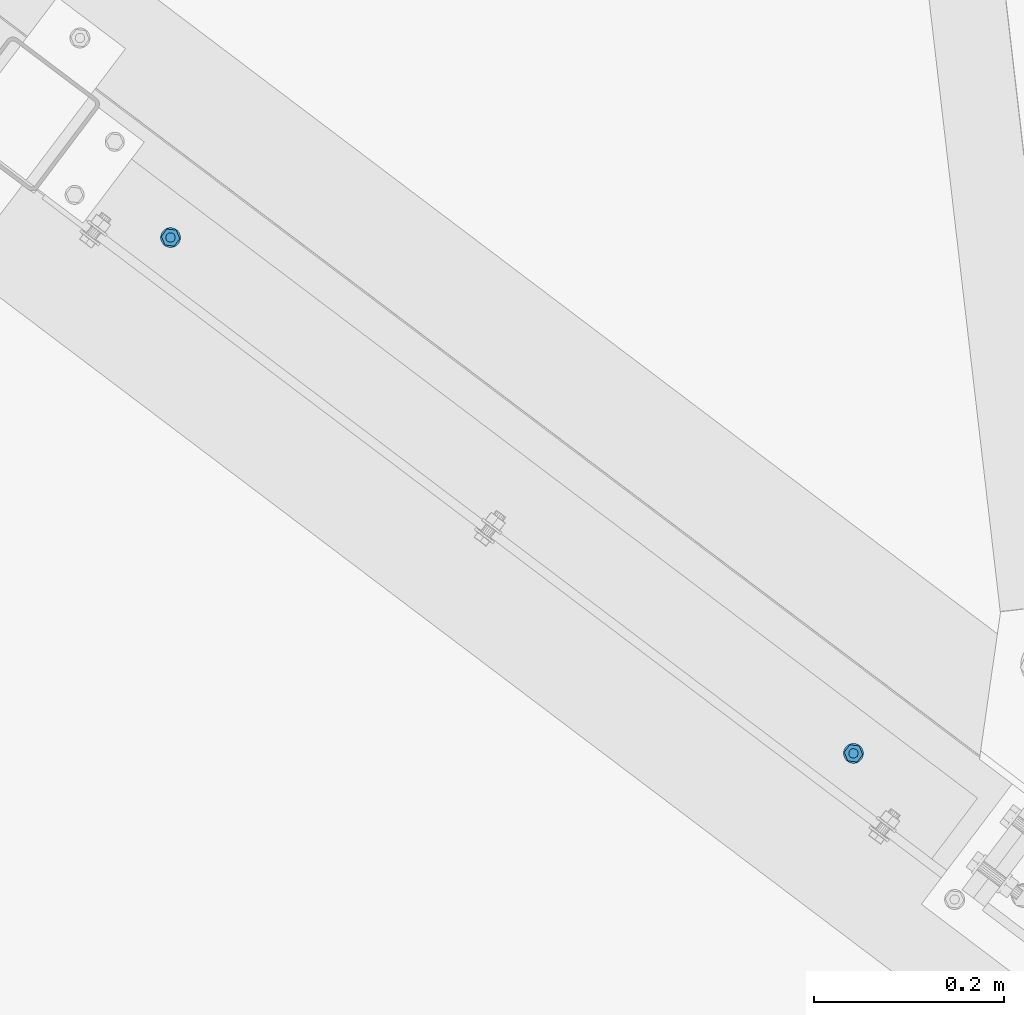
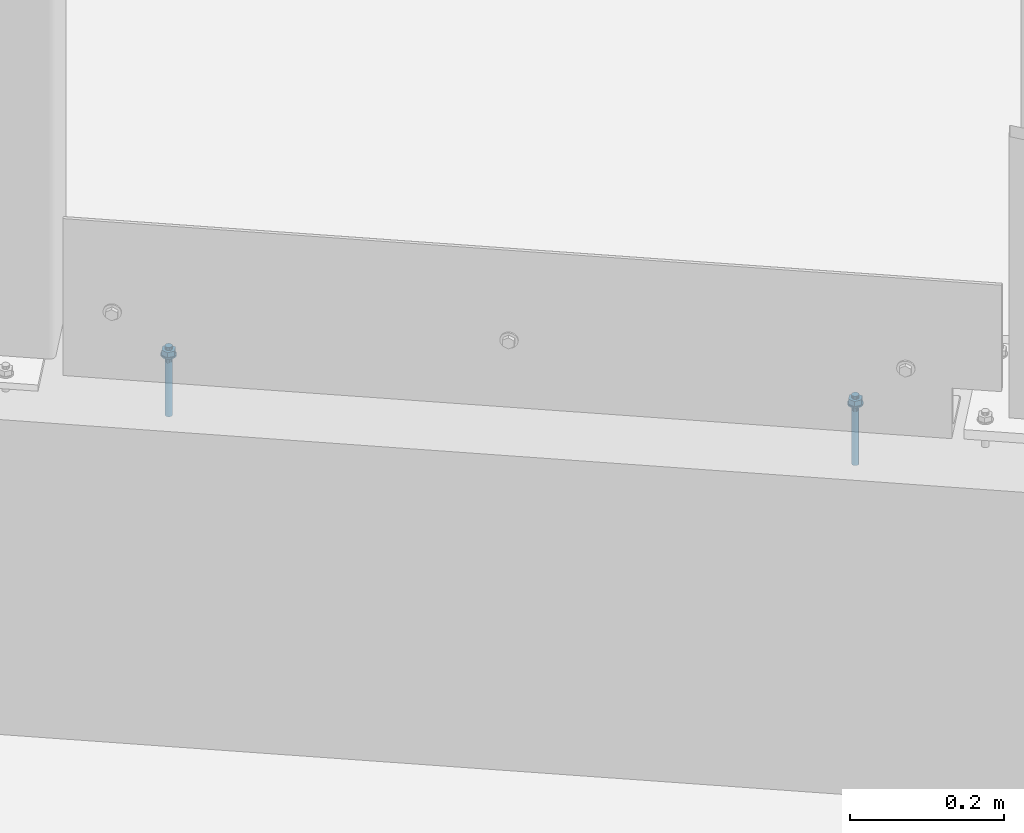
# One storey, part 174 of 476: 1 mechanical fastener.
"""IFC2X3 building model written with IfcOpenShell, lengths in millimetres."""

import ifcopenshell
import ifcopenshell.guid

model = None  # the IFC model being written
_history = None  # IfcOwnerHistory: only IFC2X3 demands one
_inside = {}  # id of a spatial element -> (the spatial element, [elements in it])
_under = {}  # id of a project, library or spatial element -> (it, [spatial elements below it])
_declared = {}  # id of a project -> (the project, [libraries it declares])
_typed = {}  # id of a type object -> (the type object, [elements of that type])
_made_of = {}  # id of a material, layer set ... -> (it, [elements and type objects made of it])


def new_model(schema):
    """Start an empty IFC model of exactly this schema.

    Asked for "IFC4X3", IfcOpenShell would pick the latest addendum, in which some entities
    have other attributes; the version numbers below select the first issue.
    IFC2X3 requires an IfcOwnerHistory on every rooted entity: one is made here for all.
    """
    global model, _history
    if schema == "IFC4X3":
        model = ifcopenshell.file(schema_version=(4, 3, 0, 0))
    else:
        model = ifcopenshell.file(schema=schema)
    _inside.clear()
    _under.clear()
    _declared.clear()
    _typed.clear()
    _made_of.clear()
    _history = None
    if model.schema == "IFC2X3":
        org = make("IfcOrganization", Name="unknown")
        user = make(
            "IfcPersonAndOrganization",
            ThePerson=make("IfcPerson", FamilyName="unknown"),
            TheOrganization=org,
        )
        app = make(
            "IfcApplication",
            ApplicationDeveloper=org,
            Version="unknown",
            ApplicationFullName="unknown",
            ApplicationIdentifier="unknown",
        )
        _history = make(
            "IfcOwnerHistory",
            OwningUser=user,
            OwningApplication=app,
            ChangeAction="ADDED",
            CreationDate=0,
        )
    return model


def make(cls, **values):
    """One entity of the class cls with the attributes given. An attribute that is None is left unset."""
    return model.create_entity(
        cls, **{name: value for name, value in values.items() if value is not None}
    )


def entity(cls, *values):
    """Any entity or typed value of the class cls, its attributes in the order of the schema. None: left unset."""
    e = model.create_entity(cls)
    for i, value in enumerate(values):
        if value is not None:
            e[i] = value
    return e


def rooted(cls, **values):
    """An entity with a GlobalId (a new one), such as an element, a storey or a relation."""
    return make(cls, GlobalId=ifcopenshell.guid.new(), OwnerHistory=_history, **values)


def si_unit(unit_type, name, prefix=None):
    """IfcSIUnit, for example si_unit("LENGTHUNIT", "METRE", prefix="MILLI")."""
    return make("IfcSIUnit", UnitType=unit_type, Prefix=prefix, Name=name)


def converted_unit(unit_type, name, factor, base, dimensions=None, offset=None):
    """IfcConversionBasedUnit, such as the inch: factor (a typed value) times the base unit."""
    return make(
        "IfcConversionBasedUnit"
        if offset is None
        else "IfcConversionBasedUnitWithOffset",
        ConversionOffset=offset,
        Dimensions=None
        if dimensions is None
        else entity("IfcDimensionalExponents", *dimensions),
        UnitType=unit_type,
        Name=name,
        ConversionFactor=make(
            "IfcMeasureWithUnit", ValueComponent=factor, UnitComponent=base
        ),
    )


def assignment(units):
    """IfcUnitAssignment: the units of a project."""
    return None if units is None else make("IfcUnitAssignment", Units=units)


def point(xyz):
    """IfcCartesianPoint."""
    return None if xyz is None else make("IfcCartesianPoint", Coordinates=xyz)


def direction(xyz):
    """IfcDirection."""
    return None if xyz is None else make("IfcDirection", DirectionRatios=xyz)


def frame(location, z_axis=None, x_axis=None):
    """IfcAxis2Placement3D, a coordinate frame: its origin and axes. An axis left out is left unset."""
    return make(
        "IfcAxis2Placement3D",
        Location=point(location),
        Axis=direction(z_axis),
        RefDirection=direction(x_axis),
    )


def origin_with_axes():
    """The frame at (0, 0, 0) with the z axis (0, 0, 1) and the x axis (1, 0, 0) written out."""
    return frame((0.0, 0.0, 0.0), z_axis=(0.0, 0.0, 1.0), x_axis=(1.0, 0.0, 0.0))


def place(relative_to, where):
    """IfcLocalPlacement: puts the frame where relative to a parent placement (None: the world)."""
    return make(
        "IfcLocalPlacement", PlacementRelTo=relative_to, RelativePlacement=where
    )


def context(
    kind, dimensions, precision=None, world=None, true_north=None, identifier=None
):
    """IfcGeometricRepresentationContext, for example the 3D "Model" context."""
    return make(
        "IfcGeometricRepresentationContext",
        ContextIdentifier=identifier,
        ContextType=kind,
        CoordinateSpaceDimension=dimensions,
        Precision=precision,
        WorldCoordinateSystem=world,
        TrueNorth=true_north,
    )


def project(units=None, contexts=None):
    """IfcProject with its units and contexts."""
    return rooted(
        "IfcProject",
        Name="project",
        RepresentationContexts=contexts,
        UnitsInContext=assignment(units),
    )


def spatial(cls, under=None, at=None, **own):
    """A site, building, storey or space (cls), placed at a placement, below another one or the project."""
    s = rooted(cls, ObjectPlacement=at, **own)
    if under is not None:
        _under.setdefault(under.id(), (under, []))[1].append(s)
    return s


def faces_of(points, faces, orient=None, outer=None):
    """IfcFace entities. A face is a list of loops; a loop is a list of indices into points, from 0.

    orient and outer hold one flag for each loop. By default every Orientation is true, the
    first loop of a face is its IfcFaceOuterBound and the others are IfcFaceBound.
    """
    made = []
    for i, loops in enumerate(faces):
        bounds = []
        for j, loop in enumerate(loops):
            is_outer = j == 0 if outer is None else outer[i][j]
            bounds.append(
                make(
                    "IfcFaceOuterBound" if is_outer else "IfcFaceBound",
                    Bound=make("IfcPolyLoop", Polygon=[points[k] for k in loop]),
                    Orientation=True if orient is None else orient[i][j],
                )
            )
        made.append(make("IfcFace", Bounds=bounds))
    return made


def faceted_brep(points, faces, orient=None, outer=None, voids=None):
    """IfcFacetedBrep: a solid bounded by flat faces; with voids (closed shells), ...WithVoids."""
    shared = [point(p) for p in points]
    hull = make("IfcClosedShell", CfsFaces=faces_of(shared, faces, orient, outer))
    if voids is None:
        return make("IfcFacetedBrep", Outer=hull)
    return make(
        "IfcFacetedBrepWithVoids",
        Outer=hull,
        Voids=[
            make(cls, CfsFaces=faces_of(shared, fs, o, b)) for cls, fs, o, b in voids
        ],
    )


def shape(context_of_items, identifier, shape_type, items):
    """IfcShapeRepresentation: the items that make up one representation, for example the "Body"."""
    return make(
        "IfcShapeRepresentation",
        ContextOfItems=context_of_items,
        RepresentationIdentifier=identifier,
        RepresentationType=shape_type,
        Items=items,
    )


def made_of(thing, what):
    """Note that an element or type object is made of a material, layer set ...; save() writes the relation."""
    if what is not None:
        _made_of.setdefault(what.id(), (what, []))[1].append(thing)
    return thing


def element(
    cls,
    number,
    at=None,
    inside=None,
    cuts=None,
    type_object=None,
    material=None,
    context=None,
    identifier="Body",
    shape_type=None,
    held_by="IfcProductDefinitionShape",
    body=None,
    shapes=None,
    **own,
):
    """One element of the class cls, such as IfcWall. Its Tag is "e" and its number.

    at: its placement. inside: the storey or other place that contains it. cuts: it is an
    opening in that element (IfcRelVoidsElement). A single representation is given by context,
    identifier, shape_type and body (its items); several are given by shapes. held_by: the class
    of the entity that holds the representations. save() writes the other relations.
    """
    e = rooted(cls, Tag="e%d" % number, ObjectPlacement=at, **own)
    if body is not None:
        shapes = [shape(context, identifier, shape_type, body)]
    if shapes is not None:
        e.Representation = make(held_by, Representations=shapes)
    if inside is not None:
        _inside.setdefault(inside.id(), (inside, []))[1].append(e)
    if cuts is not None:
        rooted(
            "IfcRelVoidsElement", RelatingBuildingElement=cuts, RelatedOpeningElement=e
        )
    if type_object is not None:
        _typed.setdefault(type_object.id(), (type_object, []))[1].append(e)
    return made_of(e, material)


def aggregate(whole, parts):
    """IfcRelAggregates: a whole, such as a stair, and the parts it consists of."""
    return rooted("IfcRelAggregates", RelatingObject=whole, RelatedObjects=parts)


def save(model, path):
    """Write the relations noted so far, then the file.

    IfcRelAggregates (storeys below a building ...), IfcRelContainedInSpatialStructure (elements
    in a storey), IfcRelDefinesByType, IfcRelAssociatesMaterial and IfcRelDeclares: one each for
    every whole, place, type object, material and project.
    """
    for whole, parts in _under.values():
        aggregate(whole, parts)
    for where, things in _inside.values():
        rooted(
            "IfcRelContainedInSpatialStructure",
            RelatedElements=things,
            RelatingStructure=where,
        )
    for kind, things in _typed.values():
        rooted("IfcRelDefinesByType", RelatedObjects=things, RelatingType=kind)
    for what, things in _made_of.values():
        rooted("IfcRelAssociatesMaterial", RelatedObjects=things, RelatingMaterial=what)
    for by, libraries in _declared.values():
        rooted("IfcRelDeclares", RelatingContext=by, RelatedDefinitions=libraries)
    model.write(path)


model = new_model("IFC2X3")

# Units and contexts
model_context = context("Model", 3, precision=1e-09, world=origin_with_axes())
ifc_project = project(units=[si_unit("LENGTHUNIT", "METRE", prefix="MILLI"), si_unit("AREAUNIT", "SQUARE_METRE"), si_unit("VOLUMEUNIT", "CUBIC_METRE"), converted_unit("PLANEANGLEUNIT", "DEGREE", entity("IfcPlaneAngleMeasure", 0.01745329), si_unit("PLANEANGLEUNIT", "RADIAN"), dimensions=[0, 0, 0, 0, 0, 0, 0])], contexts=[model_context])

# Site, building, storey
site_placement = place(None, origin_with_axes())
site = spatial("IfcSite", under=ifc_project, at=site_placement, Name="mKR Teilneubau & Sanierung BA1 - Ostfildern", CompositionType="ELEMENT")
building_placement = place(site_placement, origin_with_axes())
building = spatial("IfcBuilding", under=site, at=building_placement, Name="Struktur 1", CompositionType="ELEMENT")
storey_placement = place(building_placement, origin_with_axes())
storey = spatial("IfcBuildingStorey", under=building, at=storey_placement, Name="Default Storey", CompositionType="ELEMENT", Elevation=0.0)

# Mechanical fastener
mechanical_fastener_placement = place(None, origin_with_axes())
element("IfcMechanicalFastener", 1, at=mechanical_fastener_placement, inside=storey, ObjectType="-", NominalDiameter=10.0, NominalLength=110.0, context=model_context, shape_type="Brep", body=[
    faceted_brep([(2638.590812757, -1794.455585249, 512.0), (2638.590812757, -1794.455585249, 510.0), (2637.517130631, -1796.211732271, 510.0), (2637.517130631, -1796.211732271, 512.0), (2636.806686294, -1798.143600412, 510.0), (2636.806686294, -1798.143600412, 512.0), (2636.486781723, -1800.176949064, 510.0), (2636.486781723, -1800.176949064, 512.0), (2636.569710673, -1802.233637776, 510.0), (2636.569710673, -1802.233637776, 512.0), (2637.052286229, -1804.234629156, 510.0), (2637.052286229, -1804.234629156, 512.0), (2637.915963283, -1806.103026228, 510.0), (2637.915963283, -1806.103026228, 512.0), (2639.127551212, -1807.767027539, 510.0), (2639.127551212, -1807.767027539, 512.0), (2640.64048937, -1809.162686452, 510.0), (2640.64048937, -1809.162686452, 512.0), (2642.396636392, -1810.236368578, 510.0), (2642.396636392, -1810.236368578, 512.0), (2644.328504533, -1810.946812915, 510.0), (2644.328504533, -1810.946812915, 512.0), (2646.361853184, -1811.266717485, 510.0), (2646.361853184, -1811.266717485, 512.0), (2648.418541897, -1811.183788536, 510.0), (2648.418541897, -1811.183788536, 512.0), (2650.419533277, -1810.70121298, 510.0), (2650.419533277, -1810.70121298, 512.0), (2652.287930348, -1809.837535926, 510.0), (2652.287930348, -1809.837535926, 512.0), (2653.951931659, -1808.625947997, 510.0), (2653.951931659, -1808.625947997, 512.0), (2655.347590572, -1807.113009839, 510.0), (2655.347590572, -1807.113009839, 512.0), (2656.421272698, -1805.356862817, 510.0), (2656.421272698, -1805.356862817, 512.0), (2657.131717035, -1803.424994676, 510.0), (2657.131717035, -1803.424994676, 512.0), (2657.451621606, -1801.391646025, 510.0), (2657.451621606, -1801.391646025, 512.0), (2657.368692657, -1799.334957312, 510.0), (2657.368692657, -1799.334957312, 512.0), (2656.886117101, -1797.333965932, 510.0), (2656.886117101, -1797.333965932, 512.0), (2656.022440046, -1795.465568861, 510.0), (2656.022440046, -1795.465568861, 512.0), (2654.810852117, -1793.80156755, 510.0), (2654.810852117, -1793.80156755, 512.0), (2653.29791396, -1792.405908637, 510.0), (2653.29791396, -1792.405908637, 512.0), (2651.541766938, -1791.332226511, 510.0), (2651.541766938, -1791.332226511, 512.0), (2649.609898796, -1790.621782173, 510.0), (2649.609898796, -1790.621782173, 512.0), (2647.576550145, -1790.301877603, 510.0), (2647.576550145, -1790.301877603, 512.0), (2645.519861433, -1790.384806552, 510.0), (2645.519861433, -1790.384806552, 512.0), (2643.518870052, -1790.867382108, 510.0), (2643.518870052, -1790.867382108, 512.0), (2641.650472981, -1791.731059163, 510.0), (2641.650472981, -1791.731059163, 512.0), (2639.98647167, -1792.942647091, 510.0), (2639.98647167, -1792.942647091, 512.0)], [[[0, 1, 2, 3]], [[3, 2, 4, 5]], [[5, 4, 6, 7]], [[7, 6, 8, 9]], [[9, 8, 10, 11]], [[11, 10, 12, 13]], [[13, 12, 14, 15]], [[15, 14, 16, 17]], [[17, 16, 18, 19]], [[19, 18, 20, 21]], [[21, 20, 22, 23]], [[23, 22, 24, 25]], [[25, 24, 26, 27]], [[27, 26, 28, 29]], [[29, 28, 30, 31]], [[31, 30, 32, 33]], [[33, 32, 34, 35]], [[35, 34, 36, 37]], [[37, 36, 38, 39]], [[39, 38, 40, 41]], [[41, 40, 42, 43]], [[43, 42, 44, 45]], [[45, 44, 46, 47]], [[47, 46, 48, 49]], [[49, 48, 50, 51]], [[51, 50, 52, 53]], [[53, 52, 54, 55]], [[55, 54, 56, 57]], [[57, 56, 58, 59]], [[59, 58, 60, 61]], [[61, 60, 62, 63]], [[63, 62, 1, 0]], [[0, 3, 5, 7, 9, 11, 13, 15, 17, 19, 21, 23, 25, 27, 29, 31, 33, 35, 37, 39, 41, 43, 45, 47, 49, 51, 53, 55, 57, 59, 61, 63]], [[1, 62, 60, 58, 56, 54, 52, 50, 48, 46, 44, 42, 40, 38, 36, 34, 32, 30, 28, 26, 24, 22, 20, 18, 16, 14, 12, 10, 8, 6, 4, 2]]]),
    faceted_brep([(1920.443192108, -1251.994531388, 512.0), (1920.443192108, -1251.994531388, 510.0), (1919.369509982, -1253.750678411, 510.0), (1919.369509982, -1253.750678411, 512.0), (1918.659065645, -1255.682546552, 510.0), (1918.659065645, -1255.682546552, 512.0), (1918.339161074, -1257.715895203, 510.0), (1918.339161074, -1257.715895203, 512.0), (1918.422090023, -1259.772583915, 510.0), (1918.422090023, -1259.772583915, 512.0), (1918.904665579, -1261.773575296, 510.0), (1918.904665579, -1261.773575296, 512.0), (1919.768342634, -1263.641972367, 510.0), (1919.768342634, -1263.641972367, 512.0), (1920.979930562, -1265.305973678, 510.0), (1920.979930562, -1265.305973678, 512.0), (1922.49286872, -1266.701632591, 510.0), (1922.49286872, -1266.701632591, 512.0), (1924.249015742, -1267.775314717, 510.0), (1924.249015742, -1267.775314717, 512.0), (1926.180883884, -1268.485759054, 510.0), (1926.180883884, -1268.485759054, 512.0), (1928.214232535, -1268.805663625, 510.0), (1928.214232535, -1268.805663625, 512.0), (1930.270921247, -1268.722734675, 510.0), (1930.270921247, -1268.722734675, 512.0), (1932.271912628, -1268.240159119, 510.0), (1932.271912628, -1268.240159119, 512.0), (1934.140309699, -1267.376482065, 510.0), (1934.140309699, -1267.376482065, 512.0), (1935.80431101, -1266.164894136, 510.0), (1935.80431101, -1266.164894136, 512.0), (1937.199969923, -1264.651955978, 510.0), (1937.199969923, -1264.651955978, 512.0), (1938.273652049, -1262.895808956, 510.0), (1938.273652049, -1262.895808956, 512.0), (1938.984096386, -1260.963940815, 510.0), (1938.984096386, -1260.963940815, 512.0), (1939.304000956, -1258.930592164, 510.0), (1939.304000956, -1258.930592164, 512.0), (1939.221072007, -1256.873903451, 510.0), (1939.221072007, -1256.873903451, 512.0), (1938.738496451, -1254.872912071, 510.0), (1938.738496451, -1254.872912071, 512.0), (1937.874819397, -1253.004515, 510.0), (1937.874819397, -1253.004515, 512.0), (1936.663231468, -1251.340513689, 510.0), (1936.663231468, -1251.340513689, 512.0), (1935.15029331, -1249.944854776, 510.0), (1935.15029331, -1249.944854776, 512.0), (1933.394146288, -1248.87117265, 510.0), (1933.394146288, -1248.87117265, 512.0), (1931.462278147, -1248.160728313, 510.0), (1931.462278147, -1248.160728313, 512.0), (1929.428929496, -1247.840823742, 510.0), (1929.428929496, -1247.840823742, 512.0), (1927.372240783, -1247.923752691, 510.0), (1927.372240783, -1247.923752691, 512.0), (1925.371249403, -1248.406328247, 510.0), (1925.371249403, -1248.406328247, 512.0), (1923.502852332, -1249.270005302, 510.0), (1923.502852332, -1249.270005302, 512.0), (1921.838851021, -1250.481593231, 510.0), (1921.838851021, -1250.481593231, 512.0)], [[[0, 1, 2, 3]], [[3, 2, 4, 5]], [[5, 4, 6, 7]], [[7, 6, 8, 9]], [[9, 8, 10, 11]], [[11, 10, 12, 13]], [[13, 12, 14, 15]], [[15, 14, 16, 17]], [[17, 16, 18, 19]], [[19, 18, 20, 21]], [[21, 20, 22, 23]], [[23, 22, 24, 25]], [[25, 24, 26, 27]], [[27, 26, 28, 29]], [[29, 28, 30, 31]], [[31, 30, 32, 33]], [[33, 32, 34, 35]], [[35, 34, 36, 37]], [[37, 36, 38, 39]], [[39, 38, 40, 41]], [[41, 40, 42, 43]], [[43, 42, 44, 45]], [[45, 44, 46, 47]], [[47, 46, 48, 49]], [[49, 48, 50, 51]], [[51, 50, 52, 53]], [[53, 52, 54, 55]], [[55, 54, 56, 57]], [[57, 56, 58, 59]], [[59, 58, 60, 61]], [[61, 60, 62, 63]], [[63, 62, 1, 0]], [[0, 3, 5, 7, 9, 11, 13, 15, 17, 19, 21, 23, 25, 27, 29, 31, 33, 35, 37, 39, 41, 43, 45, 47, 49, 51, 53, 55, 57, 59, 61, 63]], [[1, 62, 60, 58, 56, 54, 52, 50, 48, 46, 44, 42, 40, 38, 36, 34, 32, 30, 28, 26, 24, 22, 20, 18, 16, 14, 12, 10, 8, 6, 4, 2]]]),
    faceted_brep([(2650.787973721, -1809.809649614, 512.0), (2650.787973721, -1809.809649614, 520.0), (2641.062403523, -1808.604127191, 520.0), (2641.062403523, -1808.604127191, 512.0), (2637.243631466, -1799.578775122, 520.0), (2637.243631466, -1799.578775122, 512.0), (2643.150429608, -1791.758945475, 520.0), (2643.150429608, -1791.758945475, 512.0), (2652.875999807, -1792.964467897, 520.0), (2652.875999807, -1792.964467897, 512.0), (2656.694771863, -1801.989819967, 520.0), (2656.694771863, -1801.989819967, 512.0)], [[[0, 1, 2, 3]], [[3, 2, 4, 5]], [[5, 4, 6, 7]], [[7, 6, 8, 9]], [[9, 8, 10, 11]], [[11, 10, 1, 0]], [[4, 2, 1, 10, 8, 6]], [[0, 3, 5, 7, 9, 11]]]),
    faceted_brep([(1932.640353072, -1267.348595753, 512.0), (1932.640353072, -1267.348595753, 520.0), (1922.914782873, -1266.143073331, 520.0), (1922.914782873, -1266.143073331, 512.0), (1919.096010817, -1257.117721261, 520.0), (1919.096010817, -1257.117721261, 512.0), (1925.002808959, -1249.297891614, 520.0), (1925.002808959, -1249.297891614, 512.0), (1934.728379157, -1250.503414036, 520.0), (1934.728379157, -1250.503414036, 512.0), (1938.547151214, -1259.528766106, 520.0), (1938.547151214, -1259.528766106, 512.0)], [[[0, 1, 2, 3]], [[3, 2, 4, 5]], [[5, 4, 6, 7]], [[7, 6, 8, 9]], [[9, 8, 10, 11]], [[11, 10, 1, 0]], [[4, 2, 1, 10, 8, 6]], [[0, 3, 5, 7, 9, 11]]]),
    faceted_brep([(2642.979492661, -1797.770625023, 525.0), (2642.979492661, -1797.770625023, 520.0), (2642.129908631, -1799.52682272, 520.0), (2642.129908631, -1799.52682272, 525.0), (2642.017063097, -1801.474459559, 520.0), (2642.017063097, -1801.474459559, 525.0), (2642.658135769, -1803.317025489, 520.0), (2642.658135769, -1803.317025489, 525.0), (2643.955529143, -1804.774006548, 520.0), (2643.955529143, -1804.774006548, 525.0), (2645.71172684, -1805.623590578, 520.0), (2645.71172684, -1805.623590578, 525.0), (2647.65936368, -1805.736436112, 520.0), (2647.65936368, -1805.736436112, 525.0), (2649.501929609, -1805.09536344, 520.0), (2649.501929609, -1805.09536344, 525.0), (2650.958910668, -1803.797970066, 520.0), (2650.958910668, -1803.797970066, 525.0), (2651.808494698, -1802.041772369, 520.0), (2651.808494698, -1802.041772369, 525.0), (2651.921340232, -1800.094135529, 520.0), (2651.921340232, -1800.094135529, 525.0), (2651.280267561, -1798.2515696, 520.0), (2651.280267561, -1798.2515696, 525.0), (2649.982874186, -1796.794588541, 520.0), (2649.982874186, -1796.794588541, 525.0), (2648.226676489, -1795.94500451, 520.0), (2648.226676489, -1795.94500451, 525.0), (2646.279039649, -1795.832158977, 520.0), (2646.279039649, -1795.832158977, 525.0), (2644.43647372, -1796.473231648, 520.0), (2644.43647372, -1796.473231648, 525.0)], [[[0, 1, 2, 3]], [[3, 2, 4, 5]], [[5, 4, 6, 7]], [[7, 6, 8, 9]], [[9, 8, 10, 11]], [[11, 10, 12, 13]], [[13, 12, 14, 15]], [[15, 14, 16, 17]], [[17, 16, 18, 19]], [[19, 18, 20, 21]], [[21, 20, 22, 23]], [[23, 22, 24, 25]], [[25, 24, 26, 27]], [[27, 26, 28, 29]], [[29, 28, 30, 31]], [[31, 30, 1, 0]], [[0, 3, 5, 7, 9, 11, 13, 15, 17, 19, 21, 23, 25, 27, 29, 31]], [[1, 30, 28, 26, 24, 22, 20, 18, 16, 14, 12, 10, 8, 6, 4, 2]]]),
    faceted_brep([(1924.831872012, -1255.309571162, 525.0), (1924.831872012, -1255.309571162, 520.0), (1923.982287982, -1257.065768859, 520.0), (1923.982287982, -1257.065768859, 525.0), (1923.869442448, -1259.013405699, 520.0), (1923.869442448, -1259.013405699, 525.0), (1924.510515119, -1260.855971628, 520.0), (1924.510515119, -1260.855971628, 525.0), (1925.807908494, -1262.312952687, 520.0), (1925.807908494, -1262.312952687, 525.0), (1927.564106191, -1263.162536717, 520.0), (1927.564106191, -1263.162536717, 525.0), (1929.51174303, -1263.275382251, 520.0), (1929.51174303, -1263.275382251, 525.0), (1931.35430896, -1262.634309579, 520.0), (1931.35430896, -1262.634309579, 525.0), (1932.811290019, -1261.336916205, 520.0), (1932.811290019, -1261.336916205, 525.0), (1933.660874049, -1259.580718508, 520.0), (1933.660874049, -1259.580718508, 525.0), (1933.773719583, -1257.633081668, 520.0), (1933.773719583, -1257.633081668, 525.0), (1933.132646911, -1255.790515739, 520.0), (1933.132646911, -1255.790515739, 525.0), (1931.835253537, -1254.33353468, 520.0), (1931.835253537, -1254.33353468, 525.0), (1930.07905584, -1253.48395065, 520.0), (1930.07905584, -1253.48395065, 525.0), (1928.131419, -1253.371105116, 520.0), (1928.131419, -1253.371105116, 525.0), (1926.288853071, -1254.012177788, 520.0), (1926.288853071, -1254.012177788, 525.0)], [[[0, 1, 2, 3]], [[3, 2, 4, 5]], [[5, 4, 6, 7]], [[7, 6, 8, 9]], [[9, 8, 10, 11]], [[11, 10, 12, 13]], [[13, 12, 14, 15]], [[15, 14, 16, 17]], [[17, 16, 18, 19]], [[19, 18, 20, 21]], [[21, 20, 22, 23]], [[23, 22, 24, 25]], [[25, 24, 26, 27]], [[27, 26, 28, 29]], [[29, 28, 30, 31]], [[31, 30, 1, 0]], [[0, 3, 5, 7, 9, 11, 13, 15, 17, 19, 21, 23, 25, 27, 29, 31]], [[1, 30, 28, 26, 24, 22, 20, 18, 16, 14, 12, 10, 8, 6, 4, 2]]]),
    faceted_brep([(2642.979492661, -1797.770625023, 510.0), (2642.979492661, -1797.770625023, 500.0), (2642.129908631, -1799.52682272, 500.0), (2642.129908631, -1799.52682272, 510.0), (2642.017063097, -1801.474459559, 500.0), (2642.017063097, -1801.474459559, 510.0), (2642.658135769, -1803.317025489, 500.0), (2642.658135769, -1803.317025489, 510.0), (2643.955529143, -1804.774006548, 500.0), (2643.955529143, -1804.774006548, 510.0), (2645.71172684, -1805.623590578, 500.0), (2645.71172684, -1805.623590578, 510.0), (2647.65936368, -1805.736436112, 500.0), (2647.65936368, -1805.736436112, 510.0), (2649.501929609, -1805.09536344, 500.0), (2649.501929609, -1805.09536344, 510.0), (2650.958910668, -1803.797970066, 500.0), (2650.958910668, -1803.797970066, 510.0), (2651.808494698, -1802.041772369, 500.0), (2651.808494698, -1802.041772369, 510.0), (2651.921340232, -1800.094135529, 500.0), (2651.921340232, -1800.094135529, 510.0), (2651.280267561, -1798.2515696, 500.0), (2651.280267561, -1798.2515696, 510.0), (2649.982874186, -1796.794588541, 500.0), (2649.982874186, -1796.794588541, 510.0), (2648.226676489, -1795.94500451, 500.0), (2648.226676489, -1795.94500451, 510.0), (2646.279039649, -1795.832158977, 500.0), (2646.279039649, -1795.832158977, 510.0), (2644.43647372, -1796.473231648, 500.0), (2644.43647372, -1796.473231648, 510.0)], [[[0, 1, 2, 3]], [[3, 2, 4, 5]], [[5, 4, 6, 7]], [[7, 6, 8, 9]], [[9, 8, 10, 11]], [[11, 10, 12, 13]], [[13, 12, 14, 15]], [[15, 14, 16, 17]], [[17, 16, 18, 19]], [[19, 18, 20, 21]], [[21, 20, 22, 23]], [[23, 22, 24, 25]], [[25, 24, 26, 27]], [[27, 26, 28, 29]], [[29, 28, 30, 31]], [[31, 30, 1, 0]], [[0, 3, 5, 7, 9, 11, 13, 15, 17, 19, 21, 23, 25, 27, 29, 31]], [[1, 30, 28, 26, 24, 22, 20, 18, 16, 14, 12, 10, 8, 6, 4, 2]]]),
    faceted_brep([(1924.831872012, -1255.309571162, 510.0), (1924.831872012, -1255.309571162, 500.0), (1923.982287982, -1257.065768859, 500.0), (1923.982287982, -1257.065768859, 510.0), (1923.869442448, -1259.013405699, 500.0), (1923.869442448, -1259.013405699, 510.0), (1924.510515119, -1260.855971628, 500.0), (1924.510515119, -1260.855971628, 510.0), (1925.807908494, -1262.312952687, 500.0), (1925.807908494, -1262.312952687, 510.0), (1927.564106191, -1263.162536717, 500.0), (1927.564106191, -1263.162536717, 510.0), (1929.51174303, -1263.275382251, 500.0), (1929.51174303, -1263.275382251, 510.0), (1931.35430896, -1262.634309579, 500.0), (1931.35430896, -1262.634309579, 510.0), (1932.811290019, -1261.336916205, 500.0), (1932.811290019, -1261.336916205, 510.0), (1933.660874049, -1259.580718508, 500.0), (1933.660874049, -1259.580718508, 510.0), (1933.773719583, -1257.633081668, 500.0), (1933.773719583, -1257.633081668, 510.0), (1933.132646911, -1255.790515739, 500.0), (1933.132646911, -1255.790515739, 510.0), (1931.835253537, -1254.33353468, 500.0), (1931.835253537, -1254.33353468, 510.0), (1930.07905584, -1253.48395065, 500.0), (1930.07905584, -1253.48395065, 510.0), (1928.131419, -1253.371105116, 500.0), (1928.131419, -1253.371105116, 510.0), (1926.288853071, -1254.012177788, 500.0), (1926.288853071, -1254.012177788, 510.0)], [[[0, 1, 2, 3]], [[3, 2, 4, 5]], [[5, 4, 6, 7]], [[7, 6, 8, 9]], [[9, 8, 10, 11]], [[11, 10, 12, 13]], [[13, 12, 14, 15]], [[15, 14, 16, 17]], [[17, 16, 18, 19]], [[19, 18, 20, 21]], [[21, 20, 22, 23]], [[23, 22, 24, 25]], [[25, 24, 26, 27]], [[27, 26, 28, 29]], [[29, 28, 30, 31]], [[31, 30, 1, 0]], [[0, 3, 5, 7, 9, 11, 13, 15, 17, 19, 21, 23, 25, 27, 29, 31]], [[1, 30, 28, 26, 24, 22, 20, 18, 16, 14, 12, 10, 8, 6, 4, 2]]]),
    faceted_brep([(2642.979492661, -1797.770625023, 500.0), (2642.979492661, -1797.770625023, 415.0), (2642.468215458, -1798.606885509, 415.0), (2642.468215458, -1798.606885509, 500.0), (2642.129908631, -1799.52682272, 415.0), (2642.129908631, -1799.52682272, 500.0), (2641.977573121, -1800.495083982, 415.0), (2641.977573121, -1800.495083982, 500.0), (2642.017063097, -1801.474459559, 415.0), (2642.017063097, -1801.474459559, 500.0), (2642.246860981, -1802.427312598, 415.0), (2642.246860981, -1802.427312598, 500.0), (2642.658135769, -1803.317025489, 415.0), (2642.658135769, -1803.317025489, 500.0), (2643.235082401, -1804.109407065, 415.0), (2643.235082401, -1804.109407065, 500.0), (2643.955529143, -1804.774006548, 415.0), (2643.955529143, -1804.774006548, 500.0), (2644.79178963, -1805.285283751, 415.0), (2644.79178963, -1805.285283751, 500.0), (2645.71172684, -1805.623590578, 415.0), (2645.71172684, -1805.623590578, 500.0), (2646.679988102, -1805.775926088, 415.0), (2646.679988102, -1805.775926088, 500.0), (2647.65936368, -1805.736436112, 415.0), (2647.65936368, -1805.736436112, 500.0), (2648.612216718, -1805.506638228, 415.0), (2648.612216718, -1805.506638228, 500.0), (2649.501929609, -1805.09536344, 415.0), (2649.501929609, -1805.09536344, 500.0), (2650.294311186, -1804.518416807, 415.0), (2650.294311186, -1804.518416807, 500.0), (2650.958910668, -1803.797970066, 415.0), (2650.958910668, -1803.797970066, 500.0), (2651.470187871, -1802.961709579, 415.0), (2651.470187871, -1802.961709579, 500.0), (2651.808494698, -1802.041772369, 415.0), (2651.808494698, -1802.041772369, 500.0), (2651.960830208, -1801.073511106, 415.0), (2651.960830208, -1801.073511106, 500.0), (2651.921340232, -1800.094135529, 415.0), (2651.921340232, -1800.094135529, 500.0), (2651.691542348, -1799.141282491, 415.0), (2651.691542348, -1799.141282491, 500.0), (2651.280267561, -1798.2515696, 415.0), (2651.280267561, -1798.2515696, 500.0), (2650.703320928, -1797.459188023, 415.0), (2650.703320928, -1797.459188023, 500.0), (2649.982874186, -1796.794588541, 415.0), (2649.982874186, -1796.794588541, 500.0), (2649.146613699, -1796.283311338, 415.0), (2649.146613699, -1796.283311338, 500.0), (2648.226676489, -1795.94500451, 415.0), (2648.226676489, -1795.94500451, 500.0), (2647.258415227, -1795.792669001, 415.0), (2647.258415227, -1795.792669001, 500.0), (2646.279039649, -1795.832158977, 415.0), (2646.279039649, -1795.832158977, 500.0), (2645.326186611, -1796.06195686, 415.0), (2645.326186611, -1796.06195686, 500.0), (2644.43647372, -1796.473231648, 415.0), (2644.43647372, -1796.473231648, 500.0), (2643.644092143, -1797.050178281, 415.0), (2643.644092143, -1797.050178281, 500.0)], [[[0, 1, 2, 3]], [[3, 2, 4, 5]], [[5, 4, 6, 7]], [[7, 6, 8, 9]], [[9, 8, 10, 11]], [[11, 10, 12, 13]], [[13, 12, 14, 15]], [[15, 14, 16, 17]], [[17, 16, 18, 19]], [[19, 18, 20, 21]], [[21, 20, 22, 23]], [[23, 22, 24, 25]], [[25, 24, 26, 27]], [[27, 26, 28, 29]], [[29, 28, 30, 31]], [[31, 30, 32, 33]], [[33, 32, 34, 35]], [[35, 34, 36, 37]], [[37, 36, 38, 39]], [[39, 38, 40, 41]], [[41, 40, 42, 43]], [[43, 42, 44, 45]], [[45, 44, 46, 47]], [[47, 46, 48, 49]], [[49, 48, 50, 51]], [[51, 50, 52, 53]], [[53, 52, 54, 55]], [[55, 54, 56, 57]], [[57, 56, 58, 59]], [[59, 58, 60, 61]], [[61, 60, 62, 63]], [[63, 62, 1, 0]], [[0, 3, 5, 7, 9, 11, 13, 15, 17, 19, 21, 23, 25, 27, 29, 31, 33, 35, 37, 39, 41, 43, 45, 47, 49, 51, 53, 55, 57, 59, 61, 63]], [[1, 62, 60, 58, 56, 54, 52, 50, 48, 46, 44, 42, 40, 38, 36, 34, 32, 30, 28, 26, 24, 22, 20, 18, 16, 14, 12, 10, 8, 6, 4, 2]]]),
    faceted_brep([(1924.831872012, -1255.309571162, 500.0), (1924.831872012, -1255.309571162, 415.0), (1924.320594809, -1256.145831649, 415.0), (1924.320594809, -1256.145831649, 500.0), (1923.982287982, -1257.065768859, 415.0), (1923.982287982, -1257.065768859, 500.0), (1923.829952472, -1258.034030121, 415.0), (1923.829952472, -1258.034030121, 500.0), (1923.869442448, -1259.013405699, 415.0), (1923.869442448, -1259.013405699, 500.0), (1924.099240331, -1259.966258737, 415.0), (1924.099240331, -1259.966258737, 500.0), (1924.510515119, -1260.855971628, 415.0), (1924.510515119, -1260.855971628, 500.0), (1925.087461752, -1261.648353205, 415.0), (1925.087461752, -1261.648353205, 500.0), (1925.807908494, -1262.312952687, 415.0), (1925.807908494, -1262.312952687, 500.0), (1926.644168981, -1262.82422989, 415.0), (1926.644168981, -1262.82422989, 500.0), (1927.564106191, -1263.162536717, 415.0), (1927.564106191, -1263.162536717, 500.0), (1928.532367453, -1263.314872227, 415.0), (1928.532367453, -1263.314872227, 500.0), (1929.51174303, -1263.275382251, 415.0), (1929.51174303, -1263.275382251, 500.0), (1930.464596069, -1263.045584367, 415.0), (1930.464596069, -1263.045584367, 500.0), (1931.35430896, -1262.634309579, 415.0), (1931.35430896, -1262.634309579, 500.0), (1932.146690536, -1262.057362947, 415.0), (1932.146690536, -1262.057362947, 500.0), (1932.811290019, -1261.336916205, 415.0), (1932.811290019, -1261.336916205, 500.0), (1933.322567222, -1260.500655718, 415.0), (1933.322567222, -1260.500655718, 500.0), (1933.660874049, -1259.580718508, 415.0), (1933.660874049, -1259.580718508, 500.0), (1933.813209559, -1258.612457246, 415.0), (1933.813209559, -1258.612457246, 500.0), (1933.773719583, -1257.633081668, 415.0), (1933.773719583, -1257.633081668, 500.0), (1933.543921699, -1256.68022863, 415.0), (1933.543921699, -1256.68022863, 500.0), (1933.132646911, -1255.790515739, 415.0), (1933.132646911, -1255.790515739, 500.0), (1932.555700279, -1254.998134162, 415.0), (1932.555700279, -1254.998134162, 500.0), (1931.835253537, -1254.33353468, 415.0), (1931.835253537, -1254.33353468, 500.0), (1930.99899305, -1253.822257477, 415.0), (1930.99899305, -1253.822257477, 500.0), (1930.07905584, -1253.48395065, 415.0), (1930.07905584, -1253.48395065, 500.0), (1929.110794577, -1253.33161514, 415.0), (1929.110794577, -1253.33161514, 500.0), (1928.131419, -1253.371105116, 415.0), (1928.131419, -1253.371105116, 500.0), (1927.178565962, -1253.600903, 415.0), (1927.178565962, -1253.600903, 500.0), (1926.288853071, -1254.012177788, 415.0), (1926.288853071, -1254.012177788, 500.0), (1925.496471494, -1254.58912442, 415.0), (1925.496471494, -1254.58912442, 500.0)], [[[0, 1, 2, 3]], [[3, 2, 4, 5]], [[5, 4, 6, 7]], [[7, 6, 8, 9]], [[9, 8, 10, 11]], [[11, 10, 12, 13]], [[13, 12, 14, 15]], [[15, 14, 16, 17]], [[17, 16, 18, 19]], [[19, 18, 20, 21]], [[21, 20, 22, 23]], [[23, 22, 24, 25]], [[25, 24, 26, 27]], [[27, 26, 28, 29]], [[29, 28, 30, 31]], [[31, 30, 32, 33]], [[33, 32, 34, 35]], [[35, 34, 36, 37]], [[37, 36, 38, 39]], [[39, 38, 40, 41]], [[41, 40, 42, 43]], [[43, 42, 44, 45]], [[45, 44, 46, 47]], [[47, 46, 48, 49]], [[49, 48, 50, 51]], [[51, 50, 52, 53]], [[53, 52, 54, 55]], [[55, 54, 56, 57]], [[57, 56, 58, 59]], [[59, 58, 60, 61]], [[61, 60, 62, 63]], [[63, 62, 1, 0]], [[0, 3, 5, 7, 9, 11, 13, 15, 17, 19, 21, 23, 25, 27, 29, 31, 33, 35, 37, 39, 41, 43, 45, 47, 49, 51, 53, 55, 57, 59, 61, 63]], [[1, 62, 60, 58, 56, 54, 52, 50, 48, 46, 44, 42, 40, 38, 36, 34, 32, 30, 28, 26, 24, 22, 20, 18, 16, 14, 12, 10, 8, 6, 4, 2]]]),
])

save(model, "model.ifc")
